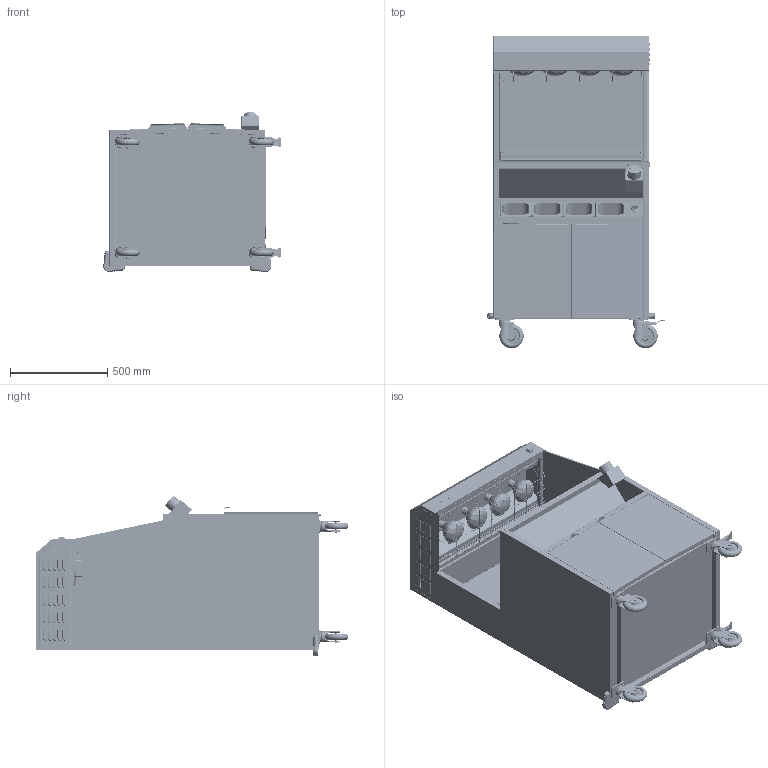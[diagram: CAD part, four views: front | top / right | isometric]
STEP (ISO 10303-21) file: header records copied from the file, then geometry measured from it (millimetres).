
FILE_DESCRIPTION (( 'STEP AP214' ), '1' );
FILE_NAME ('pres_CPDSDC800.STEP', '2024-12-12T16:04:26', ( '' ), ( '' ), 'SwSTEP 2.0', 'SolidWorks 2025', '' );
FILE_SCHEMA (( 'AUTOMOTIVE_DESIGN' ));
Length unit declared in the file: millimetre
Products named in the file (1): pres_CPDSDC800
Bounding box: 912.19 x 1607.3 x 824.44 mm (x, y, z)
Volume: 16192115.3 mm3; surface area: 23471135 mm2
Topology: 131 solids, 131 shells, 12136 faces, 31114 edges, 19024 vertices
Faces by surface type: plane 6818, cylinder 3728, torus 575, bspline 566, cone 425, sphere 24
Entity records: 521531 total; most frequent: CARTESIAN_POINT 106411, ORIENTED_EDGE 62172, DIRECTION 61090, EDGE_CURVE 31086, AXIS2_PLACEMENT_3D 20386, LINE 20318, VECTOR 20318, VERTEX_POINT 19022
